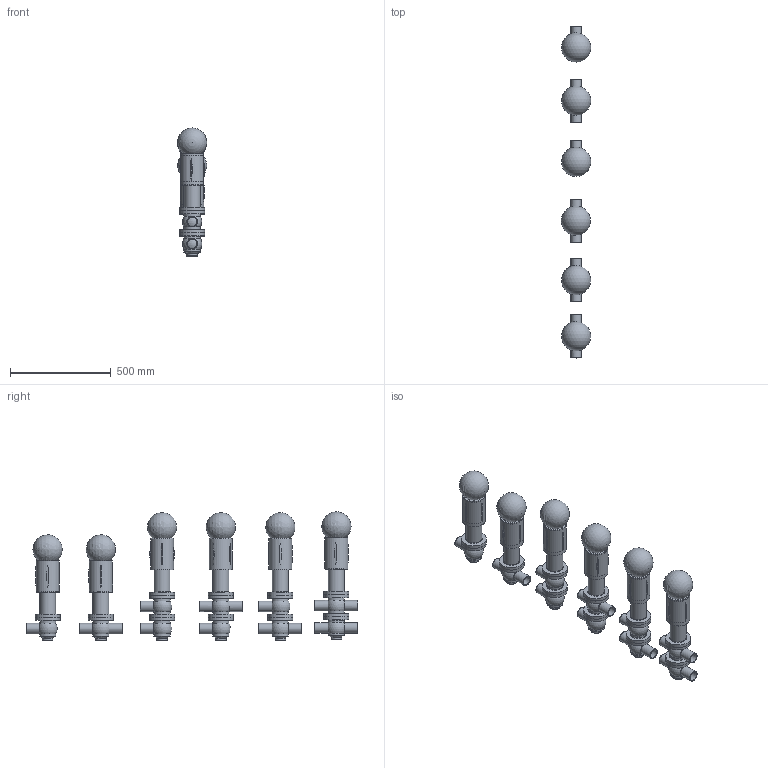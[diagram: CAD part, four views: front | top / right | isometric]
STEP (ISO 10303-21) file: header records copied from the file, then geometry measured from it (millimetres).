
FILE_DESCRIPTION(/* description */ (''),/* implementation_level */ '2;1');
FILE_NAME(/* name */ 'C:\Users\marz-m\Desktop\PDF\BBZQ 3D STEP\BBZQ-DN508-CIL.108.stp',/* time_stamp */ '2018-04-13T14:53:48+02:00',/* author */ ('marz-m'),/* organization */ (''),/* preprocessor_version */ 'ST-DEVELOPER v17',/* originating_system */ 'Autodesk Inventor 2018',/* authorisation */ '');
FILE_SCHEMA (('AUTOMOTIVE_DESIGN { 1 0 10303 214 3 1 1 }'));
Length unit declared in the file: millimetre
Products named in the file (8): BBZQ-DN508-CIL.108; COR-INF-L-BBZQ-DN052X3-SALD; COR-INF-T-BBZQ-DN052X3-SALD; assemblaggio dn50 per cil 108-156; CIL108; SAGOMA-GIOTTO-; CORPO-SUP-INF-BBZQ-L-DN52X3-SALD; CORPO-SUP-INF-BBZQ-T-DN52X3-SALD
Assembly tree (28 placements, depth 2):
  BBZQ-DN508-CIL.108
    COR-INF-L-BBZQ-DN052X3-SALD  x3
    COR-INF-T-BBZQ-DN052X3-SALD  x3
    assemblaggio dn50 per cil 108-156  x6
    CIL108  x6
    SAGOMA-GIOTTO-  x6
    CORPO-SUP-INF-BBZQ-L-DN52X3-SALD  x2
    CORPO-SUP-INF-BBZQ-T-DN52X3-SALD  x2
Bounding box: 145.52 x 1644.54 x 634.82 mm (x, y, z)
Volume: 23938090.5 mm3; surface area: 2518662.2 mm2
Topology: 28 solids, 34 shells, 392 faces, 938 edges, 700 vertices
Faces by surface type: plane 121, cylinder 112, cone 66, torus 62, sphere 31
Full cylindrical faces by diameter (mm): 20 x12, 46 x21, 52 x21, 79 x6, 80 x20, 108.5 x6, 114 x6, 124 x20
Entity records: 4179 total; most frequent: CARTESIAN_POINT 1131, DIRECTION 665, ORIENTED_EDGE 498, AXIS2_PLACEMENT_3D 312, EDGE_CURVE 249, VERTEX_POINT 186, CIRCLE 168, EDGE_LOOP 137
